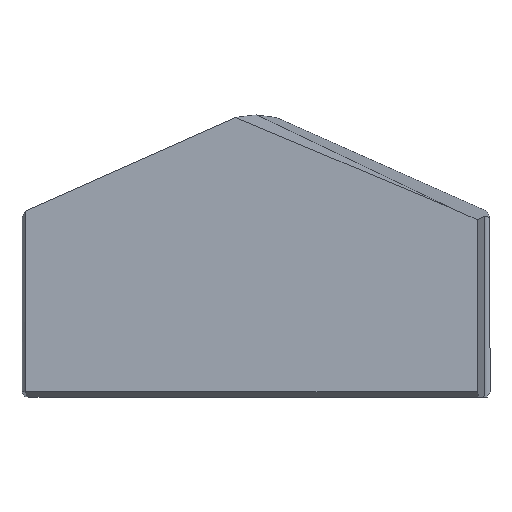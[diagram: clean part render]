
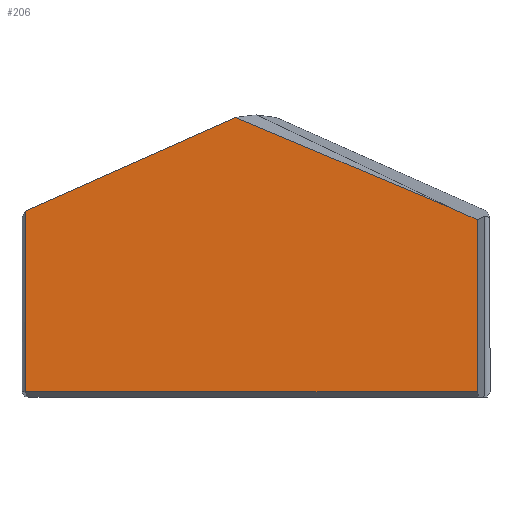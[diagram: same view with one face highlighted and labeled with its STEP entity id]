
A CAD part, top view. The second image highlights one B-rep face of the part: STEP entity #206.
In plain terms, the highlighted planar face has unit normal (0, 0, 1).
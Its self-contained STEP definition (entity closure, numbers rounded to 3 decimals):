
#9 = LINE ( 'NONE', #358, #522 ) ;
#12 = CARTESIAN_POINT ( 'NONE',  ( -13.28, 0.3, 4.8 ) ) ;
#22 = VERTEX_POINT ( 'NONE', #116 ) ;
#43 = DIRECTION ( 'NONE',  ( 1., 0., 0. ) ) ;
#50 = VERTEX_POINT ( 'NONE', #389 ) ;
#63 = LINE ( 'NONE', #210, #513 ) ;
#75 = CARTESIAN_POINT ( 'NONE',  ( -13.273, 0.289, 4.8 ) ) ;
#76 = VERTEX_POINT ( 'NONE', #75 ) ;
#79 = VERTEX_POINT ( 'NONE', #572 ) ;
#80 = CARTESIAN_POINT ( 'NONE',  ( 5.901, 13.254, 4.8 ) ) ;
#85 = EDGE_CURVE ( 'NONE', #318, #79, #63, .T. ) ;
#95 = EDGE_CURVE ( 'NONE', #50, #385, #275, .T. ) ;
#100 = ORIENTED_EDGE ( 'NONE', *, *, #224, .T. ) ;
#102 = LINE ( 'NONE', #216, #213 ) ;
#104 = CARTESIAN_POINT ( 'NONE',  ( 13.104, 0.289, 4.8 ) ) ;
#105 = EDGE_CURVE ( 'NONE', #290, #79, #102, .T. ) ;
#112 = AXIS2_PLACEMENT_3D ( 'NONE', #446, #448, #43 ) ;
#116 = CARTESIAN_POINT ( 'NONE',  ( 12.745, 0.289, 4.8 ) ) ;
#124 = DIRECTION ( 'NONE',  ( -0.914, -0.407, 0. ) ) ;
#139 = FACE_OUTER_BOUND ( 'NONE', #354, .T. ) ;
#149 = ORIENTED_EDGE ( 'NONE', *, *, #105, .F. ) ;
#164 = CARTESIAN_POINT ( 'NONE',  ( 12.745, 0., 4.8 ) ) ;
#179 = CARTESIAN_POINT ( 'NONE',  ( -1.17, 16.099, 4.8 ) ) ;
#188 = EDGE_CURVE ( 'NONE', #22, #50, #418, .T. ) ;
#192 = VECTOR ( 'NONE', #526, 1000. ) ;
#206 = ADVANCED_FACE ( 'NONE', ( #139 ), #359, .T. ) ;
#210 = CARTESIAN_POINT ( 'NONE',  ( 0., 16.62, 4.8 ) ) ;
#211 = VECTOR ( 'NONE', #427, 1000. ) ;
#213 = VECTOR ( 'NONE', #256, 1000. ) ;
#216 = CARTESIAN_POINT ( 'NONE',  ( -13.28, 0., 4.8 ) ) ;
#224 = EDGE_CURVE ( 'NONE', #385, #318, #9, .T. ) ;
#230 = CARTESIAN_POINT ( 'NONE',  ( -13.278, 0.296, 4.8 ) ) ;
#246 = ORIENTED_EDGE ( 'NONE', *, *, #335, .T. ) ;
#256 = DIRECTION ( 'NONE',  ( 0., 1., 0. ) ) ;
#264 = DIRECTION ( 'NONE',  ( -0.922, 0.388, 0. ) ) ;
#275 = LINE ( 'NONE', #80, #379 ) ;
#290 = VERTEX_POINT ( 'NONE', #453 ) ;
#294 = ORIENTED_EDGE ( 'NONE', *, *, #85, .T. ) ;
#318 = VERTEX_POINT ( 'NONE', #179 ) ;
#323 = CARTESIAN_POINT ( 'NONE',  ( -13.273, 0.289, 4.8 ) ) ;
#335 = EDGE_CURVE ( 'NONE', #290, #76, #351, .T. ) ;
#351 = B_SPLINE_CURVE_WITH_KNOTS ( 'NONE', 3,
 ( #12, #230, #505, #323 ),
 .UNSPECIFIED., .F., .F.,
 ( 4, 4 ),
 ( 0., 0. ),
 .UNSPECIFIED. ) ;
#354 = EDGE_LOOP ( 'NONE', ( #540, #100, #294, #149, #246, #511, #394 ) ) ;
#358 = CARTESIAN_POINT ( 'NONE',  ( 5.58, 13.259, 4.8 ) ) ;
#359 = PLANE ( 'NONE',  #112 ) ;
#379 = VECTOR ( 'NONE', #523, 1000. ) ;
#385 = VERTEX_POINT ( 'NONE', #459 ) ;
#389 = CARTESIAN_POINT ( 'NONE',  ( 12.745, 10.207, 4.8 ) ) ;
#394 = ORIENTED_EDGE ( 'NONE', *, *, #188, .T. ) ;
#418 = LINE ( 'NONE', #164, #192 ) ;
#427 = DIRECTION ( 'NONE',  ( 1., 0., 0. ) ) ;
#431 = LINE ( 'NONE', #104, #211 ) ;
#446 = CARTESIAN_POINT ( 'NONE',  ( 0., 0., 4.8 ) ) ;
#448 = DIRECTION ( 'NONE',  ( 0., 0., 1. ) ) ;
#453 = CARTESIAN_POINT ( 'NONE',  ( -13.28, 0.3, 4.8 ) ) ;
#459 = CARTESIAN_POINT ( 'NONE',  ( 11.253, 10.871, 4.8 ) ) ;
#461 = EDGE_CURVE ( 'NONE', #76, #22, #431, .T. ) ;
#505 = CARTESIAN_POINT ( 'NONE',  ( -13.275, 0.292, 4.8 ) ) ;
#511 = ORIENTED_EDGE ( 'NONE', *, *, #461, .T. ) ;
#513 = VECTOR ( 'NONE', #124, 1000. ) ;
#522 = VECTOR ( 'NONE', #264, 1000. ) ;
#523 = DIRECTION ( 'NONE',  ( -0.914, 0.407, 0. ) ) ;
#526 = DIRECTION ( 'NONE',  ( 0., 1., 0. ) ) ;
#540 = ORIENTED_EDGE ( 'NONE', *, *, #95, .T. ) ;
#572 = CARTESIAN_POINT ( 'NONE',  ( -13.28, 10.707, 4.8 ) ) ;
